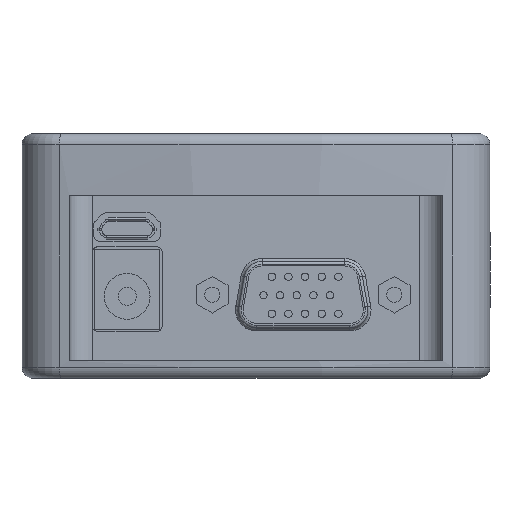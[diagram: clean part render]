
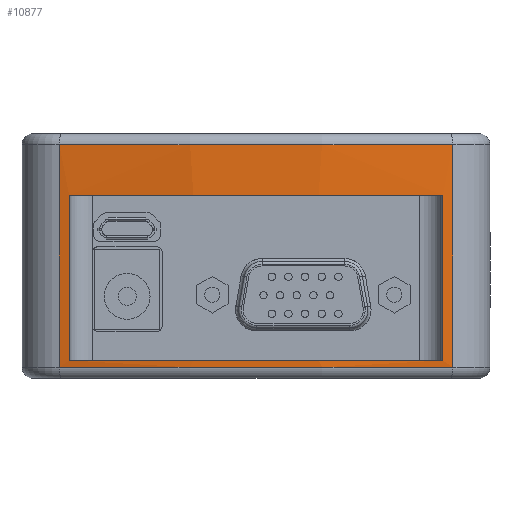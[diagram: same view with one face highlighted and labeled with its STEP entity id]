
A CAD part, front view. The second image highlights one B-rep face of the part: STEP entity #10877.
In plain terms, the highlighted cylindrical face has radius 139.7 mm (diameter 279.4 mm), a partial arc.
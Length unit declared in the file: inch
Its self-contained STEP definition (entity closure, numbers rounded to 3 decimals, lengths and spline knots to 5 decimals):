
#179=CYLINDRICAL_SURFACE('',#11702,5.5);
#360=FACE_BOUND('',#1331,.T.);
#644=FACE_OUTER_BOUND('',#1330,.T.);
#1330=EDGE_LOOP('',(#8063,#8064,#8065,#8066));
#1331=EDGE_LOOP('',(#8067,#8068,#8069,#8070));
#2292=LINE('',#17335,#3304);
#2293=LINE('',#17339,#3305);
#2294=LINE('',#17344,#3306);
#2295=LINE('',#17348,#3307);
#3304=VECTOR('',#13760,1.);
#3305=VECTOR('',#13763,1.);
#3306=VECTOR('',#13768,1.);
#3307=VECTOR('',#13771,1.);
#4025=CIRCLE('',#11703,5.5);
#4026=CIRCLE('',#11704,5.5);
#4027=CIRCLE('',#11705,5.5);
#4028=CIRCLE('',#11706,5.5);
#4855=VERTEX_POINT('',#17331);
#4856=VERTEX_POINT('',#17333);
#4857=VERTEX_POINT('',#17337);
#4858=VERTEX_POINT('',#17338);
#4859=VERTEX_POINT('',#17342);
#4860=VERTEX_POINT('',#17343);
#4861=VERTEX_POINT('',#17345);
#4862=VERTEX_POINT('',#17347);
#6084=EDGE_CURVE('',#4856,#4855,#2292,.T.);
#6085=EDGE_CURVE('',#4857,#4858,#2293,.T.);
#6086=EDGE_CURVE('',#4855,#4857,#4025,.T.);
#6087=EDGE_CURVE('',#4858,#4856,#4026,.T.);
#6088=EDGE_CURVE('',#4859,#4860,#2294,.T.);
#6089=EDGE_CURVE('',#4860,#4861,#4027,.T.);
#6090=EDGE_CURVE('',#4861,#4862,#2295,.T.);
#6091=EDGE_CURVE('',#4862,#4859,#4028,.T.);
#8063=ORIENTED_EDGE('',*,*,#6085,.F.);
#8064=ORIENTED_EDGE('',*,*,#6086,.F.);
#8065=ORIENTED_EDGE('',*,*,#6084,.F.);
#8066=ORIENTED_EDGE('',*,*,#6087,.F.);
#8067=ORIENTED_EDGE('',*,*,#6088,.T.);
#8068=ORIENTED_EDGE('',*,*,#6089,.T.);
#8069=ORIENTED_EDGE('',*,*,#6090,.T.);
#8070=ORIENTED_EDGE('',*,*,#6091,.T.);
#10877=ADVANCED_FACE('',(#644,#360),#179,.T.);
#11702=AXIS2_PLACEMENT_3D('',#17336,#13761,#13762);
#11703=AXIS2_PLACEMENT_3D('',#17340,#13764,#13765);
#11704=AXIS2_PLACEMENT_3D('',#17341,#13766,#13767);
#11705=AXIS2_PLACEMENT_3D('',#17346,#13769,#13770);
#11706=AXIS2_PLACEMENT_3D('',#17349,#13772,#13773);
#13760=DIRECTION('',(0.,0.,1.));
#13761=DIRECTION('center_axis',(0.,0.,
1.));
#13762=DIRECTION('ref_axis',(1.,0.,0.));
#13763=DIRECTION('',(0.,0.,-1.));
#13764=DIRECTION('center_axis',(0.,0.,
1.));
#13765=DIRECTION('ref_axis',(0.,-1.,0.));
#13766=DIRECTION('center_axis',(0.,0.,-1.));
#13767=DIRECTION('ref_axis',(0.,-1.,0.));
#13768=DIRECTION('',(0.,0.,-1.));
#13769=DIRECTION('center_axis',(0.,0.,-1.));
#13770=DIRECTION('ref_axis',(-1.,0.,0.));
#13771=DIRECTION('',(0.,0.,1.));
#13772=DIRECTION('center_axis',(0.,0.,
1.));
#13773=DIRECTION('ref_axis',(1.,0.,0.));
#17331=CARTESIAN_POINT('',(76.96578,35.14,-38.83027));
#17333=CARTESIAN_POINT('',(76.96578,35.14,-40.03458));
#17335=CARTESIAN_POINT('',(76.96578,35.14,-39.46527));
#17336=CARTESIAN_POINT('Origin',(78.02911,40.53623,-39.46527));
#17337=CARTESIAN_POINT('',(79.09245,35.14,-38.83027));
#17338=CARTESIAN_POINT('',(79.09245,35.14,-40.03458));
#17339=CARTESIAN_POINT('',(79.09245,35.14,-39.46527));
#17340=CARTESIAN_POINT('Origin',(78.02911,40.53623,-38.83027));
#17341=CARTESIAN_POINT('Origin',(78.02911,40.53623,-40.03458));
#17342=CARTESIAN_POINT('',(79.03911,35.12976,-39.10458));
#17343=CARTESIAN_POINT('',(79.03911,35.12976,-39.99684));
#17344=CARTESIAN_POINT('',(79.03911,35.12976,-39.39958));
#17345=CARTESIAN_POINT('',(77.01911,35.12976,-39.99684));
#17346=CARTESIAN_POINT('Origin',(78.02911,40.53623,-39.99684));
#17347=CARTESIAN_POINT('',(77.01911,35.12976,-39.10458));
#17348=CARTESIAN_POINT('',(77.01911,35.12976,-39.39958));
#17349=CARTESIAN_POINT('Origin',(78.02911,40.53623,-39.10458));
